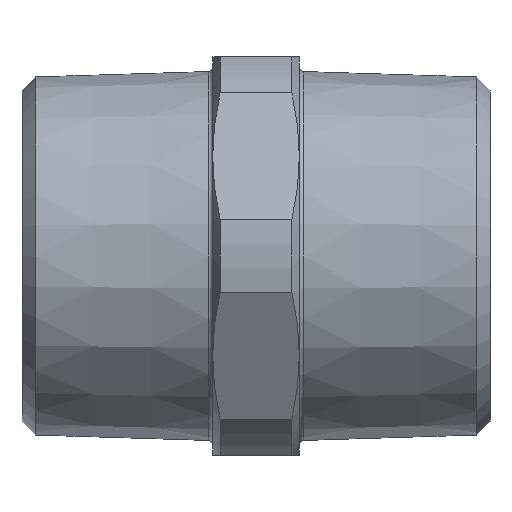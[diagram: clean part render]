
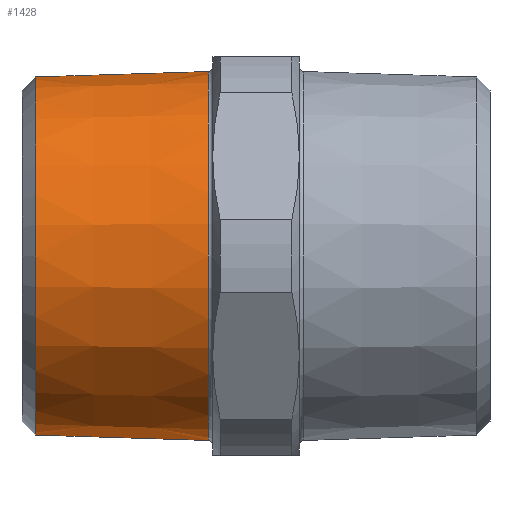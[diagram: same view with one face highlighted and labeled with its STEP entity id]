
A CAD part, front view. The second image highlights one B-rep face of the part: STEP entity #1428.
In plain terms, the highlighted conical face has half-angle 1.79 degrees and reference radius 20.659 mm.
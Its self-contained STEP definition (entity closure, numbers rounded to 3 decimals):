
#25 = AXIS2_PLACEMENT_3D ( 'NONE', #1343, #1342, #1339 ) ;
#95 = AXIS2_PLACEMENT_3D ( 'NONE', #841, #842, #843 ) ;
#126 = AXIS2_PLACEMENT_3D ( 'NONE', #707, #706, #767 ) ;
#142 = EDGE_CURVE ( 'NONE', #297, #292, #645, .T. ) ;
#149 = EDGE_CURVE ( 'NONE', #277, #292, #653, .T. ) ;
#155 = EDGE_CURVE ( 'NONE', #286, #297, #655, .T. ) ;
#184 = EDGE_CURVE ( 'NONE', #277, #286, #698, .T. ) ;
#277 = VERTEX_POINT ( 'NONE', #1111 ) ;
#286 = VERTEX_POINT ( 'NONE', #1126 ) ;
#292 = VERTEX_POINT ( 'NONE', #1131 ) ;
#297 = VERTEX_POINT ( 'NONE', #1136 ) ;
#367 = EDGE_LOOP ( 'NONE', ( #482, #483, #478, #485 ) ) ;
#478 = ORIENTED_EDGE ( 'NONE', *, *, #155, .T. ) ;
#482 = ORIENTED_EDGE ( 'NONE', *, *, #149, .F. ) ;
#483 = ORIENTED_EDGE ( 'NONE', *, *, #184, .T. ) ;
#485 = ORIENTED_EDGE ( 'NONE', *, *, #142, .T. ) ;
#645 = CIRCLE ( 'NONE', #126, 21.281 ) ;
#649 = VECTOR ( 'NONE', #756, 1000. ) ;
#653 = LINE ( 'NONE', #738, #649 ) ;
#655 = LINE ( 'NONE', #718, #665 ) ;
#665 = VECTOR ( 'NONE', #730, 1000. ) ;
#698 = CIRCLE ( 'NONE', #95, 20.659 ) ;
#706 = DIRECTION ( 'NONE',  ( -1., 0., 0. ) ) ;
#707 = CARTESIAN_POINT ( 'NONE',  ( -32.484, 0., 0. ) ) ;
#718 = CARTESIAN_POINT ( 'NONE',  ( -52.4, 0., -20.659 ) ) ;
#730 = DIRECTION ( 'NONE',  ( 1., 0., -0.031 ) ) ;
#738 = CARTESIAN_POINT ( 'NONE',  ( -52.4, 0., 20.659 ) ) ;
#756 = DIRECTION ( 'NONE',  ( 1., 0., 0.031 ) ) ;
#767 = DIRECTION ( 'NONE',  ( 0., 0., -1. ) ) ;
#841 = CARTESIAN_POINT ( 'NONE',  ( -52.4, 0., 0. ) ) ;
#842 = DIRECTION ( 'NONE',  ( 1., 0., 0. ) ) ;
#843 = DIRECTION ( 'NONE',  ( 0., 0., -1. ) ) ;
#1111 = CARTESIAN_POINT ( 'NONE',  ( -52.4, 0., 20.659 ) ) ;
#1126 = CARTESIAN_POINT ( 'NONE',  ( -52.4, 0., -20.659 ) ) ;
#1131 = CARTESIAN_POINT ( 'NONE',  ( -32.484, 0., 21.281 ) ) ;
#1136 = CARTESIAN_POINT ( 'NONE',  ( -32.484, 0., -21.281 ) ) ;
#1339 = DIRECTION ( 'NONE',  ( 0., 0., -1. ) ) ;
#1342 = DIRECTION ( 'NONE',  ( 1., 0., 0. ) ) ;
#1343 = CARTESIAN_POINT ( 'NONE',  ( -52.4, 0., 0. ) ) ;
#1428 = ADVANCED_FACE ( 'NONE', ( #1586 ), #1433, .T. ) ;
#1433 = CONICAL_SURFACE ( 'NONE', #25, 20.659, 0.031 ) ;
#1586 = FACE_OUTER_BOUND ( 'NONE', #367, .T. ) ;
